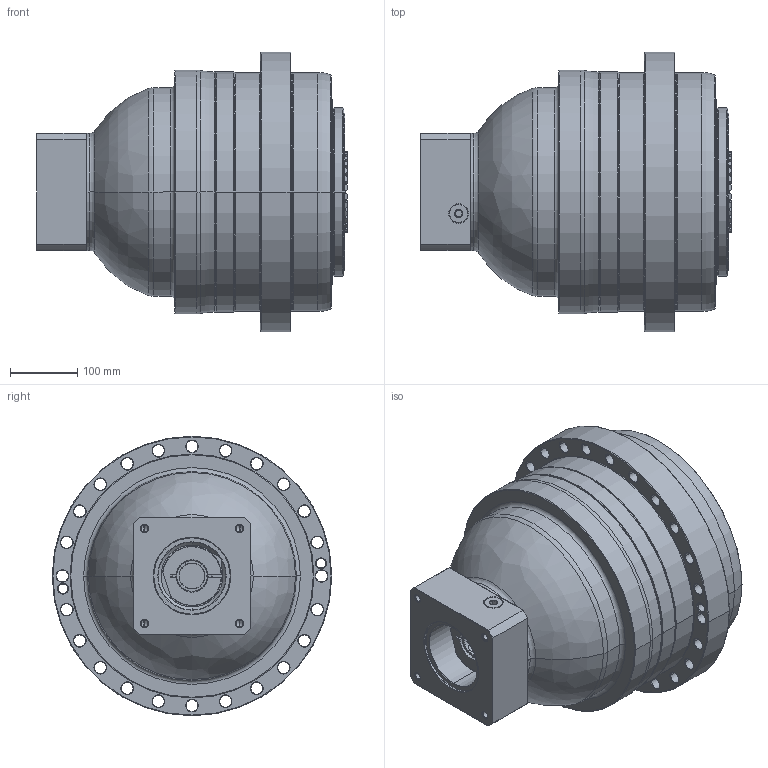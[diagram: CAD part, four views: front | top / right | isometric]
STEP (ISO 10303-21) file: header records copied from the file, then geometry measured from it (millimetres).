
FILE_DESCRIPTION((''),'2;1');
FILE_NAME('APC355_3ST_38-P0409910201_ASM','2018-11-01T',('d01226'),(''),'PRO/ENGINEER BY PARAMETRIC TECHNOLOGY CORPORATION, 2015240','PRO/ENGINEER BY PARAMETRIC TECHNOLOGY CORPORATION, 2015240','');
FILE_SCHEMA(('CONFIG_CONTROL_DESIGN'));
Length unit declared in the file: millimetre
Products named in the file (9): P0276101003; P03571G0103; P1366900201; P0503900012; P0912602001; P1222100001; P0409910201; 21711422019; APC355_3ST_38-P0409910201_ASM
Assembly tree (8 placements, depth 2):
  APC355_3ST_38-P0409910201_ASM
    P0276101003
    P03571G0103
    P1366900201
    P0503900012
    P0912602001
    P1222100001
    P0409910201
    21711422019
Bounding box: 461.6 x 415 x 415 mm (x, y, z)
Volume: 38165753 mm3; surface area: 1374759.6 mm2
Topology: 9 solids, 22 shells, 848 faces, 2096 edges, 1283 vertices
Faces by surface type: cone 278, cylinder 250, plane 161, torus 145, bspline 14
Entity records: 31564 total; most frequent: CARTESIAN_POINT 11110, DIRECTION 4541, ORIENTED_EDGE 4090, EDGE_CURVE 2070, AXIS2_PLACEMENT_3D 1974, VERTEX_POINT 1283, CIRCLE 1111, EDGE_LOOP 957
